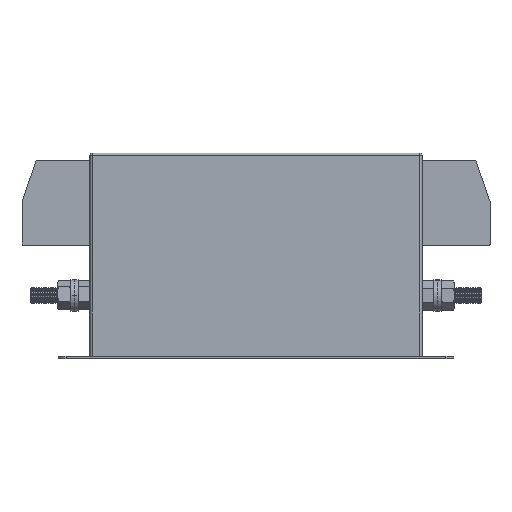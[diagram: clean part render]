
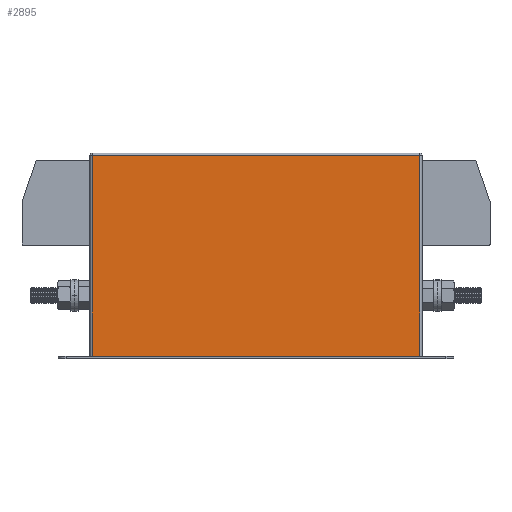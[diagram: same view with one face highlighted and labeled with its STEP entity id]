
A CAD part, top view. The second image highlights one B-rep face of the part: STEP entity #2895.
In plain terms, the highlighted planar face has unit normal (0, 0, 1).
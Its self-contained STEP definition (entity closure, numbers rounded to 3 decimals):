
#619 = ORIENTED_EDGE ( 'NONE', *, *, #5088, .T. ) ;
#906 = VERTEX_POINT ( 'NONE', #4818 ) ;
#957 = VERTEX_POINT ( 'NONE', #4918 ) ;
#1044 = ORIENTED_EDGE ( 'NONE', *, *, #2062, .T. ) ;
#1053 = VERTEX_POINT ( 'NONE', #5104 ) ;
#1069 = VERTEX_POINT ( 'NONE', #5140 ) ;
#2062 = EDGE_CURVE ( 'NONE', #957, #906, #6913, .T. ) ;
#2341 = ORIENTED_EDGE ( 'NONE', *, *, #2415, .T. ) ;
#2415 = EDGE_CURVE ( 'NONE', #1053, #957, #7462, .T. ) ;
#2493 = EDGE_CURVE ( 'NONE', #1069, #1053, #7675, .T. ) ;
#2545 = ORIENTED_EDGE ( 'NONE', *, *, #2493, .T. ) ;
#2734 = EDGE_LOOP ( 'NONE', ( #2545, #2341, #1044, #619 ) ) ;
#2895 = ADVANCED_FACE ( 'NONE', ( #8374 ), #8369, .F. ) ;
#4818 = CARTESIAN_POINT ( 'NONE',  ( 228.5, 1.5, 0. ) ) ;
#4918 = CARTESIAN_POINT ( 'NONE',  ( 21.5, 1.5, 0. ) ) ;
#5088 = EDGE_CURVE ( 'NONE', #906, #1069, #9224, .T. ) ;
#5104 = CARTESIAN_POINT ( 'NONE',  ( 21.5, 128.5, 0. ) ) ;
#5140 = CARTESIAN_POINT ( 'NONE',  ( 228.5, 128.5, 0. ) ) ;
#6910 = DIRECTION ( 'NONE',  ( 1., 0., 0. ) ) ;
#6911 = VECTOR ( 'NONE', #6910, 1000. ) ;
#6912 = CARTESIAN_POINT ( 'NONE',  ( 20., 1.5, 0. ) ) ;
#6913 = LINE ( 'NONE', #6912, #6911 ) ;
#7459 = DIRECTION ( 'NONE',  ( 0., -1., 0. ) ) ;
#7460 = VECTOR ( 'NONE', #7459, 1000. ) ;
#7461 = CARTESIAN_POINT ( 'NONE',  ( 21.5, 130., 0. ) ) ;
#7462 = LINE ( 'NONE', #7461, #7460 ) ;
#7661 = DIRECTION ( 'NONE',  ( -1., 0., 0. ) ) ;
#7662 = VECTOR ( 'NONE', #7661, 1000. ) ;
#7663 = CARTESIAN_POINT ( 'NONE',  ( 20., 128.5, 0. ) ) ;
#7675 = LINE ( 'NONE', #7663, #7662 ) ;
#8365 = DIRECTION ( 'NONE',  ( -1., 0., 0. ) ) ;
#8366 = DIRECTION ( 'NONE',  ( 0., 0., -1. ) ) ;
#8367 = CARTESIAN_POINT ( 'NONE',  ( 20., 130., 0. ) ) ;
#8368 = AXIS2_PLACEMENT_3D ( 'NONE', #8367, #8366, #8365 ) ;
#8369 = PLANE ( 'NONE',  #8368 ) ;
#8374 = FACE_OUTER_BOUND ( 'NONE', #2734, .T. ) ;
#9221 = DIRECTION ( 'NONE',  ( 0., 1., 0. ) ) ;
#9222 = VECTOR ( 'NONE', #9221, 1000. ) ;
#9223 = CARTESIAN_POINT ( 'NONE',  ( 228.5, 130., 0. ) ) ;
#9224 = LINE ( 'NONE', #9223, #9222 ) ;
